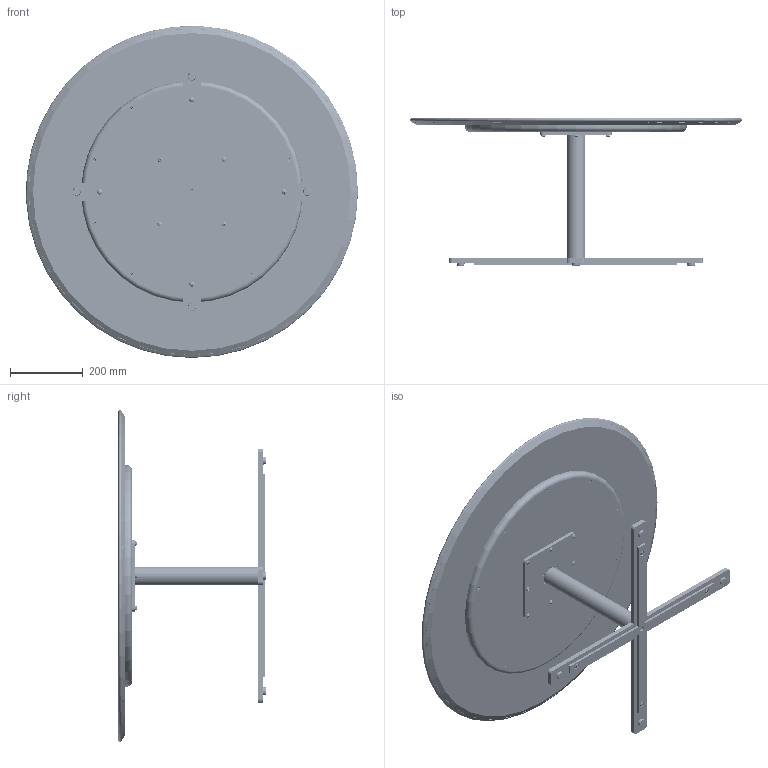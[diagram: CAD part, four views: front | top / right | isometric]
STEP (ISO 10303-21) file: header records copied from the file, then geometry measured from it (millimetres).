
FILE_DESCRIPTION(/* description */ ('CAPRI COFFEE TABLE , 36'''' DIA X 16''''H '),/* implementation_level */ '2;1');
FILE_NAME(/* name */ '3137.stp',/* time_stamp */ '2025-07-03T13:16:50-04:00',/* author */ ('emendoza'),/* organization */ (''),/* preprocessor_version */ 'ST-DEVELOPER v20',/* originating_system */ 'Autodesk Inventor 2025',/* authorisation */ '');
FILE_SCHEMA (('AUTOMOTIVE_DESIGN { 1 0 10303 214 3 1 1 }'));
Products named in the file (40): 3137; 3136-010; 3136-011; 3136-011_1; 3136-012; 3136-013; HD01-036; HD01-213; 3138-019; 3136-014; 3136-014_1; 3136-015; 3136-016; 3136-016_1; 3136-020; 3136-020_1; 3136-017; 3136-018; FA01-003; PA230; 3136-021; MEFA311; 3137-030; 3137-031; FA151; 3137-040; 3137-041 ; 3137-042; 3137-044; 3137-045; 3137-046; 3137-047; 3137-043; 3137-043_1; 3137-043_2; 3137-043_3; 3137-043_4; 3137-043_5; 95170-OS; FA012
Assembly tree (76 placements, depth 6):
  3137
    3136-010
      3136-011
        3136-011_1
        3136-012
        3136-013  x2
        HD01-036  x8
        HD01-213
      3138-019
      3136-014
        3136-014_1
        3136-015
        3136-016
        3136-016_1
      3136-020
        3136-020_1
        3136-017
        3136-018  x2
      FA01-003  x4
      PA230  x4
      3136-021
      MEFA311
    3137-030
      3137-031
      FA151  x8
    3137-040
      3137-041 
        3137-042
          3137-044
            3137-045
            3137-046
            3137-047
          3137-043
          3137-043_1
          3137-043_2
          3137-043_3
          3137-043_4
          3137-043_5
    95170-OS  x8
    FA012  x9
Bounding box: 913.83 x 405.61 x 913.77 mm (x, y, z)
Volume: 18861549.7 mm3; surface area: 5051774.3 mm2
Topology: 94 solids, 94 shells, 2663 faces, 7151 edges, 4748 vertices
Faces by surface type: cylinder 1285, plane 914, cone 263, bspline 120, torus 69, sphere 12
Full cylindrical faces by diameter (mm): 2.812 x81, 3.489 x9, 4.166 x81, 4.7 x248, 4.711 x20, 4.762 x10, 6.35 x288, 7.144 x18, 7.747 x16, 7.938 x16, 8.433 x9, 10.162 x3, 11.112 x4, 12.497 x8, 12.7 x10, 13.494 x3, 14.287 x1, 14.554 x4, 15.088 x1, 15.875 x5, 19.05 x8, 19.844 x8, 22.225 x2, 25.4 x2, 31.75 x1, 33.337 x1, 47.752 x1, 50.8 x1, 76.2 x1, 609.6 x1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
Entity records: 39894 total; most frequent: CARTESIAN_POINT 20892, DIRECTION 3668, ORIENTED_EDGE 3600, EDGE_CURVE 1800, AXIS2_PLACEMENT_3D 1424, VERTEX_POINT 1189, EDGE_LOOP 871, LINE 820
